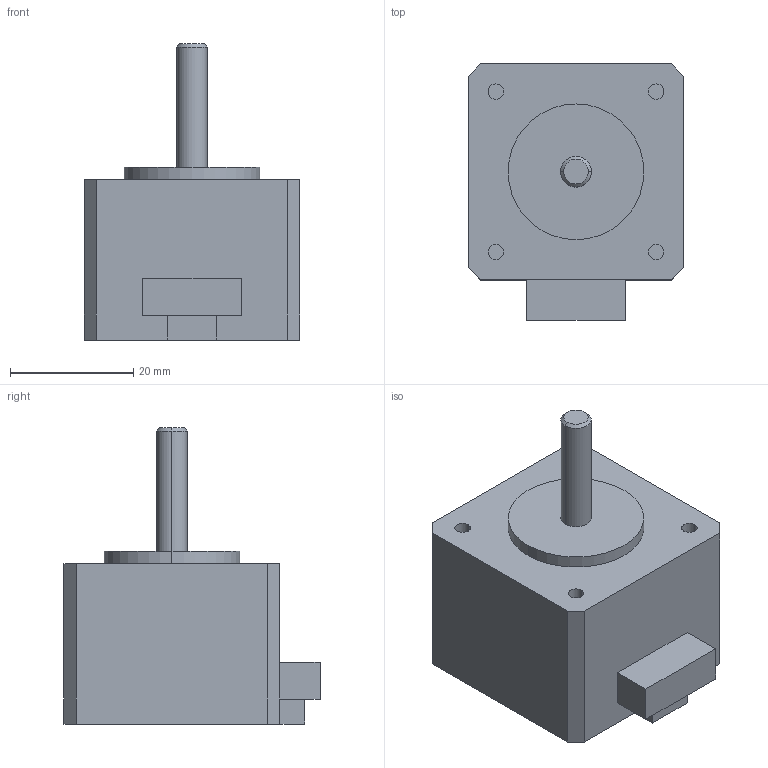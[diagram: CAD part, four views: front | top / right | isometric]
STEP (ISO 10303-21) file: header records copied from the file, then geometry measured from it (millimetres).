
FILE_DESCRIPTION (( 'STEP AP203' ), '1' );
FILE_NAME ('35A01-BX.STEP', '2024-06-19T02:57:52', ( 'Windows 蚚誧' ), ( '' ), 'SwSTEP 2.0', 'SolidWorks 2020', '' );
FILE_SCHEMA (( 'CONFIG_CONTROL_DESIGN' ));
Length unit declared in the file: millimetre
Products named in the file (1): 35A01-BX
Bounding box: 35 x 41.5 x 48 mm (x, y, z)
Volume: 33476.4 mm3; surface area: 6827.6 mm2
Topology: 1 solids, 1 shells, 38 faces, 88 edges, 58 vertices
Faces by surface type: plane 24, cylinder 12, cone 2
Entity records: 1159 total; most frequent: DIRECTION 192, CARTESIAN_POINT 185, ORIENTED_EDGE 176, EDGE_CURVE 88, AXIS2_PLACEMENT_3D 65, VECTOR 62, LINE 62, VERTEX_POINT 58
